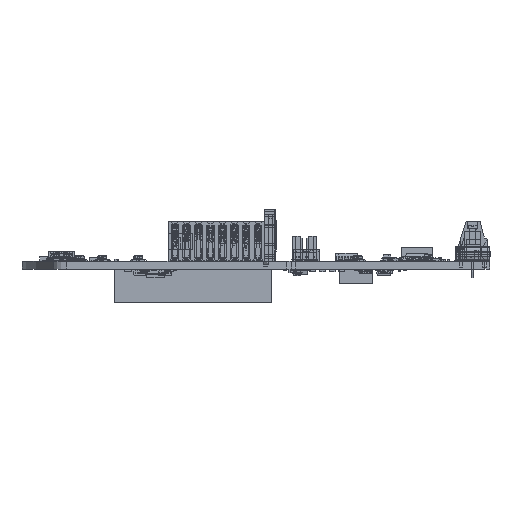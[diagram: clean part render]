
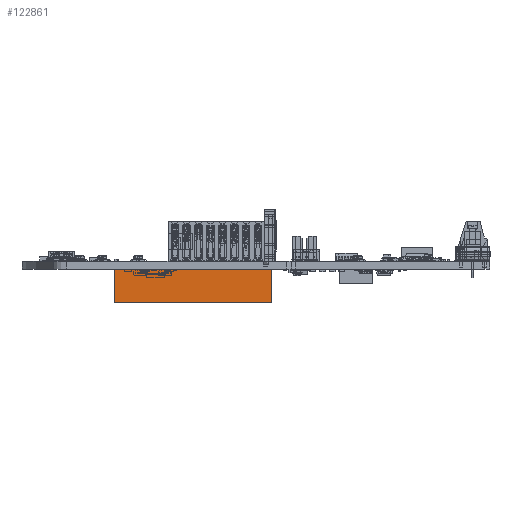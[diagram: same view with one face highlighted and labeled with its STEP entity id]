
A CAD part, front view. The second image highlights one B-rep face of the part: STEP entity #122861.
In plain terms, the highlighted planar face has unit normal (0, -1, 0).
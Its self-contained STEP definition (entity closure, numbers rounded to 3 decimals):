
#122836 = VERTEX_POINT('',#122837);
#122837 = CARTESIAN_POINT('',(16.764,-2.515,7.1));
#122843 = EDGE_CURVE('',#122844,#122836,#122846,.T.);
#122844 = VERTEX_POINT('',#122845);
#122845 = CARTESIAN_POINT('',(16.764,-2.515,0.));
#122846 = LINE('',#122847,#122848);
#122847 = CARTESIAN_POINT('',(16.764,-2.515,0.));
#122848 = VECTOR('',#122849,1.);
#122849 = DIRECTION('',(0.,0.,1.));
#122861 = ADVANCED_FACE('',(#122862),#122887,.T.);
#122862 = FACE_BOUND('',#122863,.T.);
#122863 = EDGE_LOOP('',(#122864,#122865,#122873,#122881));
#122864 = ORIENTED_EDGE('',*,*,#122843,.T.);
#122865 = ORIENTED_EDGE('',*,*,#122866,.T.);
#122866 = EDGE_CURVE('',#122836,#122867,#122869,.T.);
#122867 = VERTEX_POINT('',#122868);
#122868 = CARTESIAN_POINT('',(-16.764,-2.515,7.1));
#122869 = LINE('',#122870,#122871);
#122870 = CARTESIAN_POINT('',(16.764,-2.515,7.1));
#122871 = VECTOR('',#122872,1.);
#122872 = DIRECTION('',(-1.,0.,0.));
#122873 = ORIENTED_EDGE('',*,*,#122874,.F.);
#122874 = EDGE_CURVE('',#122875,#122867,#122877,.T.);
#122875 = VERTEX_POINT('',#122876);
#122876 = CARTESIAN_POINT('',(-16.764,-2.515,0.));
#122877 = LINE('',#122878,#122879);
#122878 = CARTESIAN_POINT('',(-16.764,-2.515,0.));
#122879 = VECTOR('',#122880,1.);
#122880 = DIRECTION('',(0.,0.,1.));
#122881 = ORIENTED_EDGE('',*,*,#122882,.F.);
#122882 = EDGE_CURVE('',#122844,#122875,#122883,.T.);
#122883 = LINE('',#122884,#122885);
#122884 = CARTESIAN_POINT('',(16.764,-2.515,0.));
#122885 = VECTOR('',#122886,1.);
#122886 = DIRECTION('',(-1.,0.,0.));
#122887 = PLANE('',#122888);
#122888 = AXIS2_PLACEMENT_3D('',#122889,#122890,#122891);
#122889 = CARTESIAN_POINT('',(16.764,-2.515,0.));
#122890 = DIRECTION('',(0.,-1.,0.));
#122891 = DIRECTION('',(-1.,0.,0.));
